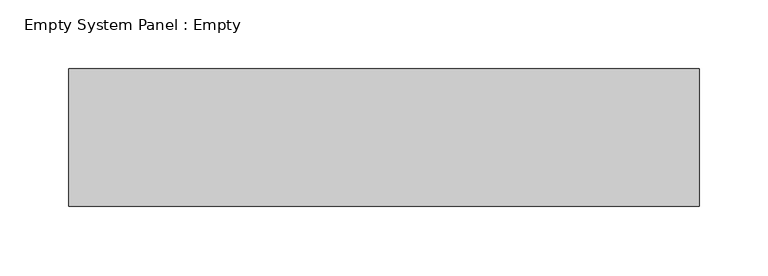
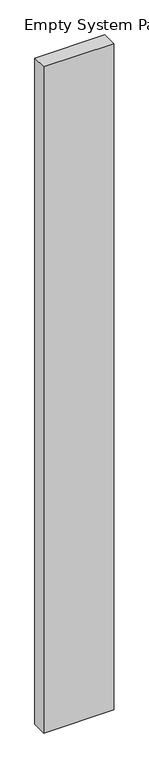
"""IFC4 building model written with IfcOpenShell, lengths in millimetres: plate geometry, Empty System Panel : Empty."""

from ifc_helpers import new_model, si_unit, origin, origin_with_axes, place, context, project, spatial, polyline, outline, extrude, source, transform, mapped, element, save


def empty_system_panel_empty_43b0b6da(model_context):
    return source(origin(), model_context, "Body", "SweptSolid", [
        extrude(outline(polyline([(229.6046705, -50.0), (-229.6046705, -50.0), (-229.6046705, 50.0), (229.6046705, 50.0), (229.6046705, -50.0)])), origin_with_axes(), (0.0, 0.0, 1.0), 4616.070576),
    ])


if __name__ == "__main__":
    model = new_model("IFC4")
    model_context = context("Model", 3, world=origin())
    ifc_project = project(units=[si_unit("LENGTHUNIT", "METRE", prefix="MILLI")], contexts=[model_context])
    site = spatial("IfcSite", under=ifc_project)
    building = spatial("IfcBuilding", under=site)
    placement = place(None, origin())
    empty_system_panel_empty_shape = empty_system_panel_empty_43b0b6da(model_context)
    element("IfcPlate", 1, ObjectType="Empty System Panel : Empty", at=placement, inside=building, context=model_context, shape_type="MappedRepresentation", body=[
        mapped(empty_system_panel_empty_shape, transform((0.0, 0.0, 0.0), x_axis=(1.0, 0.0, 0.0), y_axis=(0.0, 1.0, 0.0), z_axis=(0.0, 0.0, 1.0))),
    ])
    save(model, "model.ifc")
